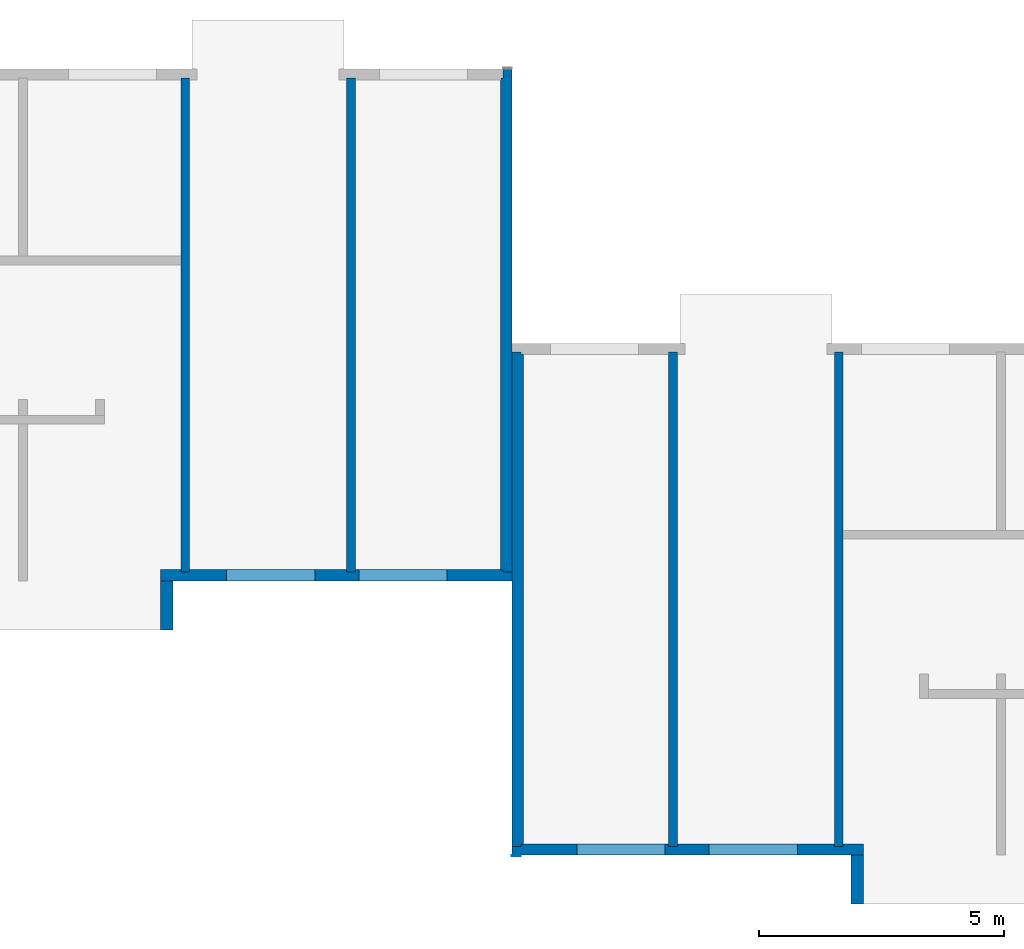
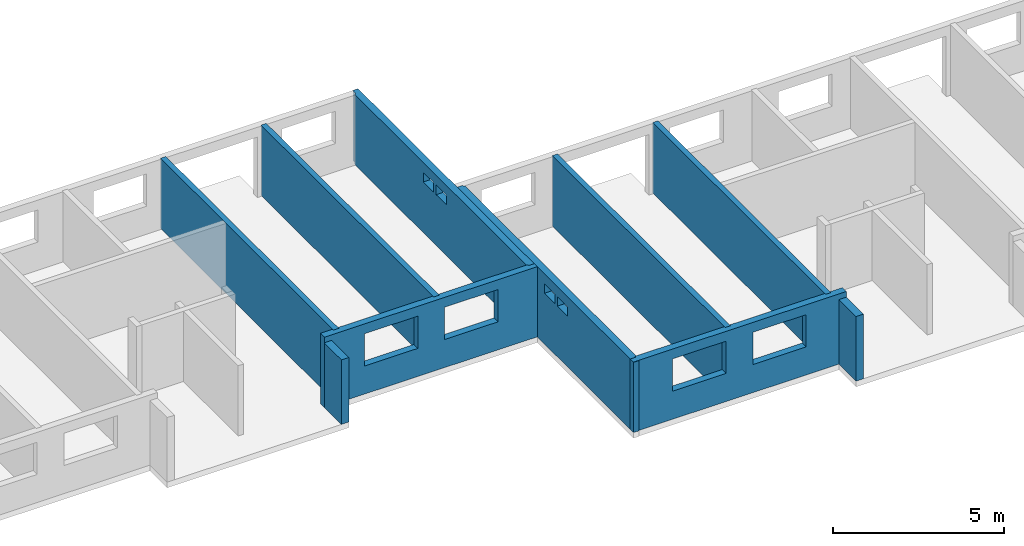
# One storey, part 7 of 9: 11 walls, 8 openings.
"""IFC2X3 building model written with IfcOpenShell, lengths in millimetres."""

from ifc_helpers import new_model, entity, si_unit, converted_unit, frame, frame_2d, origin, origin_with_axes, place, context, subcontext, project, spatial, polyline, rectangle, outline, extrude, material, layer, layer_set, layer_usage, element, save


model = new_model("IFC2X3")

# Units and contexts
model_context = context("Model", 3, precision=1e-05, world=origin())
plan_context = context("Plan", 3, precision=1e-05, world=origin())
body_context = subcontext(model_context, "Body", "Model", "MODEL_VIEW")
ifc_project = project(units=[si_unit("LENGTHUNIT", "METRE", prefix="MILLI"), converted_unit("PLANEANGLEUNIT", "DEGREE", entity("IfcPlaneAngleMeasure", 0.0174532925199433), si_unit("PLANEANGLEUNIT", "RADIAN"), dimensions=[0, 0, 0, 0, 0, 0, 0]), si_unit("AREAUNIT", "SQUARE_METRE"), si_unit("VOLUMEUNIT", "CUBIC_METRE")], contexts=[model_context, plan_context])

# Building, storey
building_placement = place(None, origin())
building = spatial("IfcBuilding", under=ifc_project, at=building_placement, Name="Bâtiment", CompositionType="ELEMENT")
storey_placement = place(building_placement, origin_with_axes())
storey = spatial("IfcBuildingStorey", under=building, at=storey_placement, Name="rdc", CompositionType="ELEMENT", Elevation=0.0)

# Wall, openings
ifc_material_1 = material(Name="moellons")
ifc_layer_1 = layer(ifc_material_1, 180.0)
ifc_material_2 = material(Name="briquettes")
ifc_layer_2 = layer(ifc_material_2, 40.0)
ifc_material_3 = material(Name="enduit platre")
ifc_layer_3 = layer(ifc_material_3, 10.0)
ifc_layer_set_1 = layer_set([ifc_layer_1, ifc_layer_2, ifc_layer_3])
ifc_layer_usage_1 = layer_usage(ifc_layer_set_1, "AXIS2", "POSITIVE", 0.0)
wall_1_placement = place(storey_placement, frame((39699.99999999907, 200.0775509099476, 0.0), z_axis=(0.0, 0.0, 1.0), x_axis=(0.0, 1.0, 0.0)))
wall_1 = element("IfcWallStandardCase", 1, at=wall_1_placement, inside=storey, material=ifc_layer_usage_1, context=body_context, shape_type="SweptSolid", body=[
    extrude(outline(polyline([(0.0, 0.0), (10270.00021457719, 0.0), (10270.00021457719, 180.0), (10090.00021457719, 180.0), (10090.00021457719, 220.0), (10050.00021457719, 220.0), (10050.00021457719, 230.0), (50.0, 230.0), (50.0, 220.0), (40.0, 220.0), (40.0, 180.0), (0.0, 180.0), (0.0, 0.0)])), origin_with_axes(), (0.0, 0.0, 1.0), 2500.0),
])
opening_1_placement = place(wall_1_placement, frame((5470.000214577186, 0.0, 1810.0), z_axis=(0.0, 1.0, 0.0), x_axis=(0.0, 0.0, 1.0)))
element("IfcOpeningElement", 2, at=opening_1_placement, cuts=wall_1, Name="Baie de fenêtre", ObjectType="Opening", context=body_context, shape_type="SweptSolid", body=[
    extrude(rectangle(XDim=340.0, YDim=600.0, at=frame_2d((170.0, 300.0), x_axis=(1.0, 0.0))), origin_with_axes(), (0.0, 0.0, 1.0), 230.0),
])
opening_2_placement = place(wall_1_placement, frame((4720.000214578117, 0.0, 1810.0), z_axis=(0.0, 1.0, 0.0), x_axis=(0.0, 0.0, 1.0)))
element("IfcOpeningElement", 3, at=opening_2_placement, cuts=wall_1, Name="Baie de fenêtre", ObjectType="Opening", context=body_context, shape_type="SweptSolid", body=[
    extrude(rectangle(XDim=340.0, YDim=600.0, at=frame_2d((170.0, 300.0), x_axis=(1.0, 0.0))), origin_with_axes(), (0.0, 0.0, 1.0), 230.0),
])

# Walls
ifc_material_4 = material(Name="moellons")
ifc_layer_4 = layer(ifc_material_4, 180.0)
ifc_layer_set_2 = layer_set([ifc_layer_4])
ifc_layer_usage_2 = layer_usage(ifc_layer_set_2, "AXIS2", "POSITIVE", 0.0)
wall_2_placement = place(storey_placement, frame((33119.99999999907, 200.077550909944, 0.0), z_axis=(0.0, 0.0, 1.0), x_axis=(0.0, 1.0, 0.0)))
element("IfcWallStandardCase", 4, at=wall_2_placement, inside=storey, material=ifc_layer_usage_2, context=body_context, shape_type="SweptSolid", body=[
    extrude(rectangle(XDim=10090.00021457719, YDim=180.0, at=frame_2d((5045.000107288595, 90.0), x_axis=(1.0, 0.0))), origin_with_axes(), (0.0, 0.0, 1.0), 2500.0),
])
ifc_material_5 = material(Name="moellons")
ifc_layer_5 = layer(ifc_material_5, 180.0)
ifc_layer_set_3 = layer_set([ifc_layer_5])
ifc_layer_usage_3 = layer_usage(ifc_layer_set_3, "AXIS2", "POSITIVE", 0.0)
wall_3_placement = place(storey_placement, frame((36499.99999999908, 200.0775509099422, 0.0), z_axis=(0.0, 0.0, 1.0), x_axis=(0.0, 1.0, 0.0)))
element("IfcWallStandardCase", 5, at=wall_3_placement, inside=storey, material=ifc_layer_usage_3, context=body_context, shape_type="SweptSolid", body=[
    extrude(rectangle(XDim=10090.00021457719, YDim=180.0, at=frame_2d((5045.000107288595, 90.0), x_axis=(1.0, 0.0))), origin_with_axes(), (0.0, 0.0, 1.0), 2500.0),
])
ifc_material_6 = material(Name="moellons")
ifc_layer_6 = layer(ifc_material_6, 20.0775509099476)
ifc_layer_set_4 = layer_set([ifc_layer_6])
ifc_layer_usage_4 = layer_usage(ifc_layer_set_4, "AXIS2", "POSITIVE", 0.0)
wall_4_placement = place(storey_placement, frame((39699.99999999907, -5579.922449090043, 0.0), z_axis=(0.0, 0.0, 1.0), x_axis=(1.0, 0.0, 0.0)))
element("IfcWallStandardCase", 6, at=wall_4_placement, inside=storey, material=ifc_layer_usage_4, context=body_context, shape_type="SweptSolid", body=[
    extrude(rectangle(XDim=180.0, YDim=20.0775509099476, at=frame_2d((90.0, 10.0387754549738), x_axis=(1.0, 0.0))), frame((0.0, -20.0775509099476, 0.0), z_axis=(0.0, 0.0, 1.0), x_axis=(1.0, 0.0, 0.0)), (0.0, 0.0, 1.0), 2500.0),
])
ifc_material_7 = material(Name="moellons")
ifc_layer_7 = layer(ifc_material_7, 180.0)
ifc_layer_set_5 = layer_set([ifc_layer_7])
ifc_layer_usage_5 = layer_usage(ifc_layer_set_5, "AXIS2", "POSITIVE", 0.0)
wall_5_placement = place(storey_placement, frame((43079.99999999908, -5399.922449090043, 0.0), z_axis=(0.0, 0.0, 1.0), x_axis=(0.0, 1.0, 0.0)))
element("IfcWallStandardCase", 7, at=wall_5_placement, inside=storey, material=ifc_layer_usage_5, context=body_context, shape_type="SweptSolid", body=[
    extrude(rectangle(XDim=10090.00021457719, YDim=180.0, at=frame_2d((5045.000107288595, 90.0), x_axis=(1.0, 0.0))), origin_with_axes(), (0.0, 0.0, 1.0), 2500.0),
])
ifc_material_8 = material(Name="moellons")
ifc_layer_8 = layer(ifc_material_8, 180.0)
ifc_layer_set_6 = layer_set([ifc_layer_8])
ifc_layer_usage_6 = layer_usage(ifc_layer_set_6, "AXIS2", "POSITIVE", 0.0)
wall_6_placement = place(storey_placement, frame((46459.99999999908, -5399.922449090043, 0.0), z_axis=(0.0, 0.0, 1.0), x_axis=(0.0, 1.0, 0.0)))
element("IfcWallStandardCase", 8, at=wall_6_placement, inside=storey, material=ifc_layer_usage_6, context=body_context, shape_type="SweptSolid", body=[
    extrude(rectangle(XDim=10090.00021457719, YDim=180.0, at=frame_2d((5045.000107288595, 90.0), x_axis=(1.0, 0.0))), origin_with_axes(), (0.0, 0.0, 1.0), 2500.0),
])

# Wall, openings
ifc_material_9 = material(Name="moellons")
ifc_layer_9 = layer(ifc_material_9, 180.0)
ifc_material_10 = material(Name="briquettes")
ifc_layer_10 = layer(ifc_material_10, 40.0)
ifc_material_11 = material(Name="enduit platre")
ifc_layer_11 = layer(ifc_material_11, 10.0)
ifc_layer_set_7 = layer_set([ifc_layer_9, ifc_layer_10, ifc_layer_11])
ifc_layer_usage_7 = layer_usage(ifc_layer_set_7, "AXIS2", "POSITIVE", 0.0)
wall_7_placement = place(storey_placement, frame((39699.99999999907, 4690.077765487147, 0.0), z_axis=(0.0, 0.0, 1.0), x_axis=(0.0, -1.0, 0.0)))
wall_7 = element("IfcWallStandardCase", 9, at=wall_7_placement, inside=storey, material=ifc_layer_usage_7, context=body_context, shape_type="SweptSolid", body=[
    extrude(outline(polyline([(0.0, 0.0), (10090.00021457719, 0.0), (10090.00021457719, 180.0), (10050.00021457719, 180.0), (10050.00021457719, 220.0), (10040.00021457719, 220.0), (10040.00021457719, 230.0), (50.0, 230.0), (50.0, 220.0), (40.0, 220.0), (40.0, 180.0), (0.0, 180.0), (0.0, 0.0)])), origin_with_axes(), (0.0, 0.0, 1.0), 2500.0),
])
opening_3_placement = place(wall_7_placement, frame((5845.00021457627, 0.0, 1810.0), z_axis=(0.0, 1.0, 0.0), x_axis=(0.0, 0.0, 1.0)))
element("IfcOpeningElement", 10, at=opening_3_placement, cuts=wall_7, Name="Baie de fenêtre", ObjectType="Opening", context=body_context, shape_type="SweptSolid", body=[
    extrude(rectangle(XDim=340.0, YDim=600.0, at=frame_2d((170.0, 300.0), x_axis=(1.0, 0.0))), origin_with_axes(), (0.0, 0.0, 1.0), 230.0),
])
opening_4_placement = place(wall_7_placement, frame((5093.000286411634, 0.0, 1810.0), z_axis=(0.0, 1.0, 0.0), x_axis=(0.0, 0.0, 1.0)))
element("IfcOpeningElement", 11, at=opening_4_placement, cuts=wall_7, Name="Baie de fenêtre", ObjectType="Opening", context=body_context, shape_type="SweptSolid", body=[
    extrude(rectangle(XDim=340.0, YDim=600.0, at=frame_2d((170.0, 300.0), x_axis=(1.0, 0.0))), origin_with_axes(), (0.0, 0.0, 1.0), 230.0),
])

ifc_material_12 = material(Name="moellons")
ifc_layer_12 = layer(ifc_material_12, 180.0)
ifc_material_13 = material(Name="briquettes")
ifc_layer_13 = layer(ifc_material_13, 40.0)
ifc_material_14 = material(Name="enduit platre")
ifc_layer_14 = layer(ifc_material_14, 10.0)
ifc_layer_set_8 = layer_set([ifc_layer_12, ifc_layer_13, ifc_layer_14])
ifc_layer_usage_8 = layer_usage(ifc_layer_set_8, "AXIS2", "POSITIVE", 0.0)
wall_8_placement = place(storey_placement, frame((32524.99999999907, 20.0775509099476, 0.0), z_axis=(0.0, 0.0, 1.0), x_axis=(1.0, 0.0, 0.0)))
wall_8 = element("IfcWallStandardCase", 12, at=wall_8_placement, inside=storey, material=ifc_layer_usage_8, context=body_context, shape_type="SweptSolid", body=[
    extrude(outline(polyline([(0.0, 0.0), (7174.999999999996, 0.0), (7174.999999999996, 180.0), (6994.999999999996, 180.0), (6994.999999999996, 220.0), (6954.999999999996, 220.0), (6954.999999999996, 230.0), (3975.000000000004, 230.0), (3975.000000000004, 180.0), (3795.000000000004, 180.0), (3795.000000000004, 230.0), (594.9999999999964, 230.0), (594.9999999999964, 180.0), (414.9999999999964, 180.0), (414.9999999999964, 230.0), (0.0, 230.0), (0.0, 0.0)])), origin_with_axes(), (0.0, 0.0, 1.0), 2500.0),
])
opening_5_placement = place(wall_8_placement, frame((1349.999999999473, 0.0, 1000.0), z_axis=(0.0, 1.0, 0.0), x_axis=(0.0, 0.0, 1.0)))
element("IfcOpeningElement", 13, at=opening_5_placement, cuts=wall_8, Name="Baie de fenêtre", ObjectType="Opening", context=body_context, shape_type="SweptSolid", body=[
    extrude(rectangle(XDim=1150.0, YDim=1800.0, at=frame_2d((575.0, 900.0), x_axis=(1.0, 0.0))), origin_with_axes(), (0.0, 0.0, 1.0), 230.0),
])
opening_6_placement = place(wall_8_placement, frame((4049.999999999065, 0.0, 1000.0), z_axis=(0.0, 1.0, 0.0), x_axis=(0.0, 0.0, 1.0)))
element("IfcOpeningElement", 14, at=opening_6_placement, cuts=wall_8, Name="Baie de fenêtre", ObjectType="Opening", context=body_context, shape_type="SweptSolid", body=[
    extrude(rectangle(XDim=1150.0, YDim=1800.0, at=frame_2d((575.0, 900.0), x_axis=(1.0, 0.0))), origin_with_axes(), (0.0, 0.0, 1.0), 230.0),
])

ifc_material_15 = material(Name="moellons")
ifc_layer_15 = layer(ifc_material_15, 180.0)
ifc_material_16 = material(Name="briquettes")
ifc_layer_16 = layer(ifc_material_16, 40.0)
ifc_material_17 = material(Name="enduit platre")
ifc_layer_17 = layer(ifc_material_17, 10.0)
ifc_layer_set_9 = layer_set([ifc_layer_15, ifc_layer_16, ifc_layer_17])
ifc_layer_usage_9 = layer_usage(ifc_layer_set_9, "AXIS2", "POSITIVE", 0.0)
wall_9_placement = place(storey_placement, frame((39699.99999999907, -5579.922449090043, 0.0), z_axis=(0.0, 0.0, 1.0), x_axis=(1.0, 0.0, 0.0)))
wall_9 = element("IfcWallStandardCase", 15, at=wall_9_placement, inside=storey, material=ifc_layer_usage_9, context=body_context, shape_type="SweptSolid", body=[
    extrude(outline(polyline([(6760.000000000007, 230.0), (6760.000000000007, 180.0), (6580.000000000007, 180.0), (6580.000000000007, 230.0), (3380.000000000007, 230.0), (3380.000000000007, 180.0), (3200.000000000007, 180.0), (3200.000000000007, 230.0), (220.0, 230.0), (220.0, 220.0), (180.0, 220.0), (180.0, 180.0), (0.0, 180.0), (0.0, 0.0), (7175.000000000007, 0.0), (7175.000000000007, 230.0), (6760.000000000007, 230.0)])), origin_with_axes(), (0.0, 0.0, 1.0), 2500.0),
])
opening_7_placement = place(wall_9_placement, frame((4024.999999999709, 0.0, 1000.0), z_axis=(0.0, 1.0, 0.0), x_axis=(0.0, 0.0, 1.0)))
element("IfcOpeningElement", 16, at=opening_7_placement, cuts=wall_9, Name="Baie de fenêtre", ObjectType="Opening", context=body_context, shape_type="SweptSolid", body=[
    extrude(rectangle(XDim=1150.0, YDim=1800.0, at=frame_2d((575.0, 900.0), x_axis=(1.0, 0.0))), origin_with_axes(), (0.0, 0.0, 1.0), 230.0),
])
opening_8_placement = place(wall_9_placement, frame((1324.999999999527, 0.0, 1000.0), z_axis=(0.0, 1.0, 0.0), x_axis=(0.0, 0.0, 1.0)))
element("IfcOpeningElement", 17, at=opening_8_placement, cuts=wall_9, Name="Baie de fenêtre", ObjectType="Opening", context=body_context, shape_type="SweptSolid", body=[
    extrude(rectangle(XDim=1150.0, YDim=1800.0, at=frame_2d((575.0, 900.0), x_axis=(1.0, 0.0))), origin_with_axes(), (0.0, 0.0, 1.0), 230.0),
])

# Walls
ifc_material_18 = material(Name="moellons")
ifc_layer_18 = layer(ifc_material_18, 249.9999999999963)
ifc_layer_set_10 = layer_set([ifc_layer_18])
ifc_layer_usage_10 = layer_usage(ifc_layer_set_10, "AXIS2", "POSITIVE", 0.0)
wall_10_placement = place(storey_placement, frame((32524.99999999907, 20.0775509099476, 0.0), z_axis=(0.0, 0.0, 1.0), x_axis=(0.0, -0.9999999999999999, 0.0)))
element("IfcWallStandardCase", 18, at=wall_10_placement, inside=storey, material=ifc_layer_usage_10, context=body_context, shape_type="SweptSolid", body=[
    extrude(rectangle(XDim=999.9145427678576, YDim=249.9999999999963, at=frame_2d((499.9572713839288, 124.9999999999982), x_axis=(1.0, 0.0))), origin_with_axes(), (0.0, 0.0, 1.0), 2300.000000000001),
])
ifc_material_19 = material(Name="moellons")
ifc_layer_19 = layer(ifc_material_19, 250.0)
ifc_layer_set_11 = layer_set([ifc_layer_19])
ifc_layer_usage_11 = layer_usage(ifc_layer_set_11, "AXIS2", "POSITIVE", 0.0)
wall_11_placement = place(storey_placement, frame((46624.99999999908, -5579.922449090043, 0.0), z_axis=(0.0, 0.0, 1.0), x_axis=(0.0, -1.0, 0.0)))
element("IfcWallStandardCase", 19, at=wall_11_placement, inside=storey, material=ifc_layer_usage_11, context=body_context, shape_type="SweptSolid", body=[
    extrude(rectangle(XDim=999.9997854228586, YDim=250.0, at=frame_2d((499.9998927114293, 125.0), x_axis=(1.0, 0.0))), origin_with_axes(), (0.0, 0.0, 1.0), 2300.000000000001),
])

save(model, "model.ifc")
